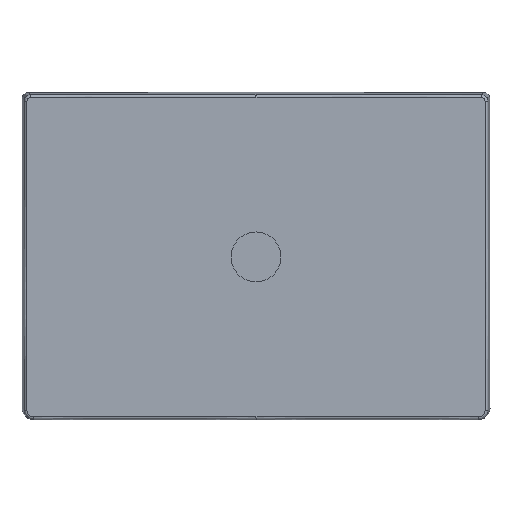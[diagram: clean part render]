
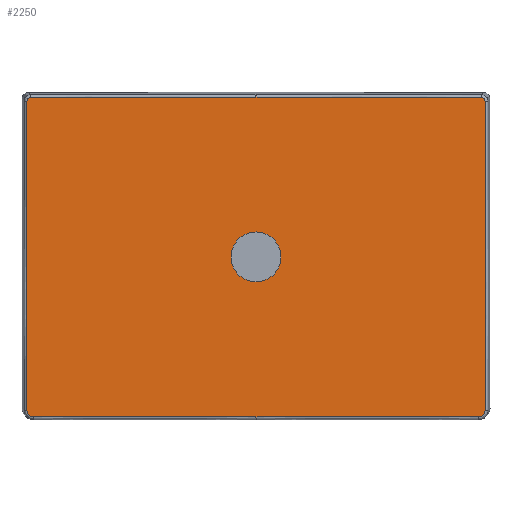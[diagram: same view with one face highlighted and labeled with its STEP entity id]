
A CAD part, front view. The second image highlights one B-rep face of the part: STEP entity #2250.
In plain terms, the highlighted planar face has unit normal (0, -1, 0).
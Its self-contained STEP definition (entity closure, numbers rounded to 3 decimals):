
#1=CARTESIAN_POINT('',(0.,720.,0.));
#2=DIRECTION('',(0.,-1.,0.));
#3=DIRECTION('',(0.,0.,-1.));
#4=AXIS2_PLACEMENT_3D('',#1,#2,#3);
#6=CARTESIAN_POINT('',(0.,720.,0.));
#7=DIRECTION('',(0.,1.,0.));
#8=DIRECTION('',(0.,0.,-1.));
#9=AXIS2_PLACEMENT_3D('',#6,#7,#8);
#11=CARTESIAN_POINT('',(287.067,720.,-206.554));
#12=CARTESIAN_POINT('',(191.378,720.,-206.554));
#13=CARTESIAN_POINT('',(95.689,720.,-206.554));
#14=CARTESIAN_POINT('',(0.,720.,-206.554));
#16=CARTESIAN_POINT('',(-287.067,720.,-206.554));
#17=CARTESIAN_POINT('',(-191.378,720.,-206.554));
#18=CARTESIAN_POINT('',(-95.689,720.,-206.554));
#19=CARTESIAN_POINT('',(0.,720.,-206.554));
#125=CARTESIAN_POINT('',(295.575,720.,-198.091));
#126=CARTESIAN_POINT('',(295.573,720.,-198.587));
#127=CARTESIAN_POINT('',(295.483,720.,-199.564));
#128=CARTESIAN_POINT('',(295.093,720.,-201.001));
#129=CARTESIAN_POINT('',(294.461,720.,-202.345));
#130=CARTESIAN_POINT('',(293.605,720.,-203.56));
#131=CARTESIAN_POINT('',(292.551,720.,-204.609));
#132=CARTESIAN_POINT('',(291.331,720.,-205.459));
#133=CARTESIAN_POINT('',(289.983,720.,-206.085));
#134=CARTESIAN_POINT('',(288.542,720.,-206.468));
#135=CARTESIAN_POINT('',(287.564,720.,-206.554));
#136=CARTESIAN_POINT('',(287.067,720.,-206.554));
#143=CARTESIAN_POINT('',(295.575,720.,-198.091));
#144=CARTESIAN_POINT('',(295.777,720.,-153.739));
#145=CARTESIAN_POINT('',(296.047,720.,-65.036));
#146=CARTESIAN_POINT('',(296.049,720.,68.019));
#147=CARTESIAN_POINT('',(295.782,720.,156.722));
#148=CARTESIAN_POINT('',(295.582,720.,201.073));
#155=CARTESIAN_POINT('',(295.582,720.,201.073));
#156=CARTESIAN_POINT('',(295.581,720.,201.336));
#157=CARTESIAN_POINT('',(295.533,720.,201.852));
#158=CARTESIAN_POINT('',(295.328,720.,202.612));
#159=CARTESIAN_POINT('',(294.994,720.,203.322));
#160=CARTESIAN_POINT('',(294.543,720.,203.964));
#161=CARTESIAN_POINT('',(293.987,720.,204.519));
#162=CARTESIAN_POINT('',(293.343,720.,204.968));
#163=CARTESIAN_POINT('',(292.632,720.,205.3));
#164=CARTESIAN_POINT('',(291.872,720.,205.503));
#165=CARTESIAN_POINT('',(291.356,720.,205.549));
#166=CARTESIAN_POINT('',(291.093,720.,205.55));
#244=CARTESIAN_POINT('',(-291.093,720.,205.55));
#245=CARTESIAN_POINT('',(-264.26,720.,205.597));
#246=CARTESIAN_POINT('',(-212.095,720.,205.71));
#247=CARTESIAN_POINT('',(-138.846,720.,205.874));
#248=CARTESIAN_POINT('',(-69.115,720.,205.996));
#249=CARTESIAN_POINT('',(-22.88,720.,206.031));
#250=CARTESIAN_POINT('',(0.,720.,206.031));
#257=CARTESIAN_POINT('',(291.093,720.,205.55));
#258=CARTESIAN_POINT('',(264.26,720.,205.597));
#259=CARTESIAN_POINT('',(212.095,720.,205.71));
#260=CARTESIAN_POINT('',(138.846,720.,205.874));
#261=CARTESIAN_POINT('',(69.115,720.,205.996));
#262=CARTESIAN_POINT('',(22.88,720.,206.031));
#263=CARTESIAN_POINT('',(0.,720.,206.031));
#270=CARTESIAN_POINT('',(-295.582,720.,201.073));
#271=CARTESIAN_POINT('',(-295.581,720.,201.336));
#272=CARTESIAN_POINT('',(-295.533,720.,201.852));
#273=CARTESIAN_POINT('',(-295.328,720.,202.612));
#274=CARTESIAN_POINT('',(-294.994,720.,203.322));
#275=CARTESIAN_POINT('',(-294.543,720.,203.964));
#276=CARTESIAN_POINT('',(-293.987,720.,204.519));
#277=CARTESIAN_POINT('',(-293.343,720.,204.968));
#278=CARTESIAN_POINT('',(-292.632,720.,205.3));
#279=CARTESIAN_POINT('',(-291.872,720.,205.503));
#280=CARTESIAN_POINT('',(-291.356,720.,205.549));
#281=CARTESIAN_POINT('',(-291.093,720.,205.55));
#338=CARTESIAN_POINT('',(-295.575,720.,-198.091));
#339=CARTESIAN_POINT('',(-295.777,720.,-153.739));
#340=CARTESIAN_POINT('',(-296.047,720.,-65.036));
#341=CARTESIAN_POINT('',(-296.049,720.,68.019));
#342=CARTESIAN_POINT('',(-295.782,720.,156.722));
#343=CARTESIAN_POINT('',(-295.582,720.,201.073));
#355=CARTESIAN_POINT('',(-295.575,720.,-198.091));
#356=CARTESIAN_POINT('',(-295.573,720.,-198.587));
#357=CARTESIAN_POINT('',(-295.483,720.,-199.564));
#358=CARTESIAN_POINT('',(-295.093,720.,-201.001));
#359=CARTESIAN_POINT('',(-294.461,720.,-202.345));
#360=CARTESIAN_POINT('',(-293.605,720.,-203.56));
#361=CARTESIAN_POINT('',(-292.551,720.,-204.609));
#362=CARTESIAN_POINT('',(-291.331,720.,-205.459));
#363=CARTESIAN_POINT('',(-289.983,720.,-206.085));
#364=CARTESIAN_POINT('',(-288.542,720.,-206.468));
#365=CARTESIAN_POINT('',(-287.564,720.,-206.554));
#366=CARTESIAN_POINT('',(-287.067,720.,-206.554));
#2110=CARTESIAN_POINT('',(291.093,720.,205.55));
#2111=VERTEX_POINT('',#2110);
#2112=CARTESIAN_POINT('',(295.582,720.,201.073));
#2113=VERTEX_POINT('',#2112);
#2129=CARTESIAN_POINT('',(295.575,720.,-198.091));
#2130=VERTEX_POINT('',#2129);
#2131=CARTESIAN_POINT('',(287.067,720.,-206.554));
#2132=VERTEX_POINT('',#2131);
#2152=CARTESIAN_POINT('',(-291.093,720.,205.55));
#2153=VERTEX_POINT('',#2152);
#2154=CARTESIAN_POINT('',(-295.582,720.,201.073));
#2155=VERTEX_POINT('',#2154);
#2171=CARTESIAN_POINT('',(-295.575,720.,-198.091));
#2172=VERTEX_POINT('',#2171);
#2173=CARTESIAN_POINT('',(-287.067,720.,-206.554));
#2174=VERTEX_POINT('',#2173);
#2197=CARTESIAN_POINT('',(0.,720.,206.031));
#2198=VERTEX_POINT('',#2197);
#2205=CARTESIAN_POINT('',(0.,720.,-206.554));
#2206=VERTEX_POINT('',#2205);
#2208=CARTESIAN_POINT('',(0.,720.,
-32.251));
#2210=VERTEX_POINT('',#2208);
#2212=CARTESIAN_POINT('',(0.,720.,
32.251));
#2214=VERTEX_POINT('',#2212);
#2217=CARTESIAN_POINT('',(0.,720.,-198.091));
#2218=DIRECTION('',(0.,1.,0.));
#2219=DIRECTION('',(1.,0.,0.));
#2220=AXIS2_PLACEMENT_3D('',#2217,#2218,#2219);
#2221=PLANE('',#2220);
#2223=ORIENTED_EDGE('',*,*,#2222,.T.);
#2225=ORIENTED_EDGE('',*,*,#2224,.F.);
#2227=ORIENTED_EDGE('',*,*,#2226,.F.);
#2229=ORIENTED_EDGE('',*,*,#2228,.T.);
#2231=ORIENTED_EDGE('',*,*,#2230,.T.);
#2233=ORIENTED_EDGE('',*,*,#2232,.T.);
#2235=ORIENTED_EDGE('',*,*,#2234,.F.);
#2237=ORIENTED_EDGE('',*,*,#2236,.F.);
#2239=ORIENTED_EDGE('',*,*,#2238,.F.);
#2241=ORIENTED_EDGE('',*,*,#2240,.T.);
#2242=EDGE_LOOP('',(#2223,#2225,#2227,#2229,#2231,#2233,#2235,#2237,#2239,
#2241));
#2243=FACE_OUTER_BOUND('',#2242,.F.);
#2245=ORIENTED_EDGE('',*,*,#2244,.T.);
#2247=ORIENTED_EDGE('',*,*,#2246,.F.);
#2248=EDGE_LOOP('',(#2245,#2247));
#2249=FACE_BOUND('',#2248,.F.);
#2250=ADVANCED_FACE('',(#2243,#2249),#2221,.F.);
#5=CIRCLE('',#4,32.251);
#10=CIRCLE('',#9,32.251);
#15=B_SPLINE_CURVE_WITH_KNOTS('',3,(#11,#12,#13,#14),.UNSPECIFIED.,.F.,.F.,(4,
4),(0.,1.),.UNSPECIFIED.);
#20=B_SPLINE_CURVE_WITH_KNOTS('',3,(#16,#17,#18,#19),.UNSPECIFIED.,.F.,.F.,(4,
4),(0.,1.),.UNSPECIFIED.);
#137=B_SPLINE_CURVE_WITH_KNOTS('',3,(#125,#126,#127,#128,#129,#130,#131,#132,
#133,#134,#135,#136),.UNSPECIFIED.,.F.,.F.,(4,1,1,1,1,1,1,1,1,4),(0.,
0.111,0.222,0.333,0.444,
0.556,0.667,0.778,0.889,1.),
.UNSPECIFIED.);
#149=B_SPLINE_CURVE_WITH_KNOTS('',3,(#143,#144,#145,#146,#147,#148),
.UNSPECIFIED.,.F.,.F.,(4,1,1,4),(0.,0.333,0.667,1.),
.UNSPECIFIED.);
#167=B_SPLINE_CURVE_WITH_KNOTS('',3,(#155,#156,#157,#158,#159,#160,#161,#162,
#163,#164,#165,#166),.UNSPECIFIED.,.F.,.F.,(4,1,1,1,1,1,1,1,1,4),(0.,
0.111,0.222,0.333,0.444,
0.556,0.667,0.778,0.889,1.),
.UNSPECIFIED.);
#251=B_SPLINE_CURVE_WITH_KNOTS('',3,(#244,#245,#246,#247,#248,#249,#250),
.UNSPECIFIED.,.F.,.F.,(4,1,1,1,4),(0.,0.25,0.5,0.75,1.),
.UNSPECIFIED.);
#264=B_SPLINE_CURVE_WITH_KNOTS('',3,(#257,#258,#259,#260,#261,#262,#263),
.UNSPECIFIED.,.F.,.F.,(4,1,1,1,4),(0.,0.25,0.5,0.75,1.),
.UNSPECIFIED.);
#282=B_SPLINE_CURVE_WITH_KNOTS('',3,(#270,#271,#272,#273,#274,#275,#276,#277,
#278,#279,#280,#281),.UNSPECIFIED.,.F.,.F.,(4,1,1,1,1,1,1,1,1,4),(0.,
0.111,0.222,0.333,0.444,
0.556,0.667,0.778,0.889,1.),
.UNSPECIFIED.);
#344=B_SPLINE_CURVE_WITH_KNOTS('',3,(#338,#339,#340,#341,#342,#343),
.UNSPECIFIED.,.F.,.F.,(4,1,1,4),(0.,0.333,0.667,1.),
.UNSPECIFIED.);
#367=B_SPLINE_CURVE_WITH_KNOTS('',3,(#355,#356,#357,#358,#359,#360,#361,#362,
#363,#364,#365,#366),.UNSPECIFIED.,.F.,.F.,(4,1,1,1,1,1,1,1,1,4),(0.,
0.111,0.222,0.333,0.444,
0.556,0.667,0.778,0.889,1.),
.UNSPECIFIED.);
#2222=EDGE_CURVE('',#2132,#2206,#15,.T.);
#2224=EDGE_CURVE('',#2174,#2206,#20,.T.);
#2226=EDGE_CURVE('',#2172,#2174,#367,.T.);
#2228=EDGE_CURVE('',#2172,#2155,#344,.T.);
#2230=EDGE_CURVE('',#2155,#2153,#282,.T.);
#2232=EDGE_CURVE('',#2153,#2198,#251,.T.);
#2234=EDGE_CURVE('',#2111,#2198,#264,.T.);
#2236=EDGE_CURVE('',#2113,#2111,#167,.T.);
#2238=EDGE_CURVE('',#2130,#2113,#149,.T.);
#2240=EDGE_CURVE('',#2130,#2132,#137,.T.);
#2244=EDGE_CURVE('',#2210,#2214,#5,.T.);
#2246=EDGE_CURVE('',#2210,#2214,#10,.T.);
